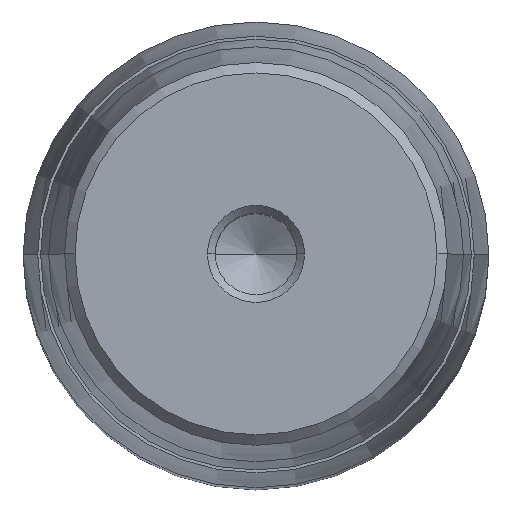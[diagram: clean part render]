
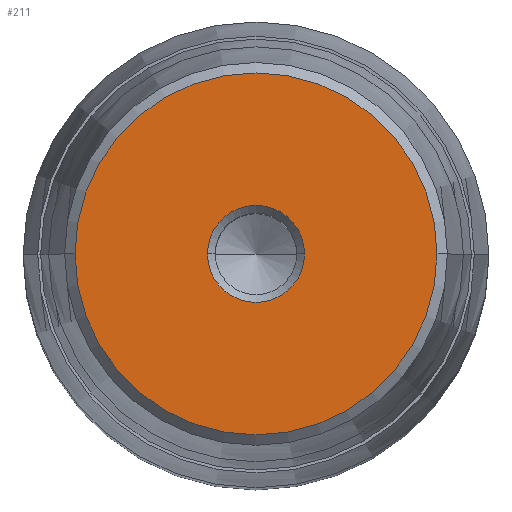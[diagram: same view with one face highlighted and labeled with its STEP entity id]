
A CAD part, top view. The second image highlights one B-rep face of the part: STEP entity #211.
In plain terms, the highlighted planar face has unit normal (0, 0, 1).
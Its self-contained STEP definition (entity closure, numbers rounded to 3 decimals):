
#136=CARTESIAN_POINT('Axis2P3D Location',(0.,0.,58.)) ;
#140=CARTESIAN_POINT('Vertex',(-5.,0.,58.)) ;
#142=CARTESIAN_POINT('Vertex',(5.,0.,58.)) ;
#179=CARTESIAN_POINT('Axis2P3D Location',(0.,5.,58.)) ;
#184=CARTESIAN_POINT('Axis2P3D Location',(0.,0.,58.)) ;
#188=CARTESIAN_POINT('Vertex',(-18.65,0.,58.)) ;
#190=CARTESIAN_POINT('Vertex',(18.65,0.,58.)) ;
#193=CARTESIAN_POINT('Axis2P3D Location',(0.,0.,58.)) ;
#202=CARTESIAN_POINT('Axis2P3D Location',(0.,0.,58.)) ;
#137=DIRECTION('Axis2P3D Direction',(0.,-0.,1.)) ;
#180=DIRECTION('Axis2P3D Direction',(0.,0.,-1.)) ;
#181=DIRECTION('Axis2P3D XDirection',(-1.,0.,0.)) ;
#185=DIRECTION('Axis2P3D Direction',(0.,0.,-1.)) ;
#194=DIRECTION('Axis2P3D Direction',(0.,0.,-1.)) ;
#203=DIRECTION('Axis2P3D Direction',(0.,0.,-1.)) ;
#138=AXIS2_PLACEMENT_3D('Circle Axis2P3D',#136,#137,$) ;
#182=AXIS2_PLACEMENT_3D('Plane Axis2P3D',#179,#180,#181) ;
#186=AXIS2_PLACEMENT_3D('Circle Axis2P3D',#184,#185,$) ;
#195=AXIS2_PLACEMENT_3D('Circle Axis2P3D',#193,#194,$) ;
#204=AXIS2_PLACEMENT_3D('Circle Axis2P3D',#202,#203,$) ;
#199=ORIENTED_EDGE('',*,*,#192,.F.) ;
#200=ORIENTED_EDGE('',*,*,#197,.F.) ;
#208=ORIENTED_EDGE('',*,*,#206,.T.) ;
#209=ORIENTED_EDGE('',*,*,#144,.T.) ;
#210=FACE_BOUND('',#207,.T.) ;
#211=ADVANCED_FACE('722-48x160x200',(#201,#210),#183,.F.) ;
#139=CIRCLE('generated circle',#138,5.) ;
#187=CIRCLE('generated circle',#186,18.65) ;
#196=CIRCLE('generated circle',#195,18.65) ;
#205=CIRCLE('generated circle',#204,5.) ;
#144=EDGE_CURVE('',#141,#143,#139,.F.) ;
#192=EDGE_CURVE('',#189,#191,#187,.T.) ;
#197=EDGE_CURVE('',#191,#189,#196,.T.) ;
#206=EDGE_CURVE('',#143,#141,#205,.T.) ;
#198=EDGE_LOOP('',(#199,#200)) ;
#207=EDGE_LOOP('',(#208,#209)) ;
#201=FACE_OUTER_BOUND('',#198,.T.) ;
#183=PLANE('Plane',#182) ;
#141=VERTEX_POINT('',#140) ;
#143=VERTEX_POINT('',#142) ;
#189=VERTEX_POINT('',#188) ;
#191=VERTEX_POINT('',#190) ;
